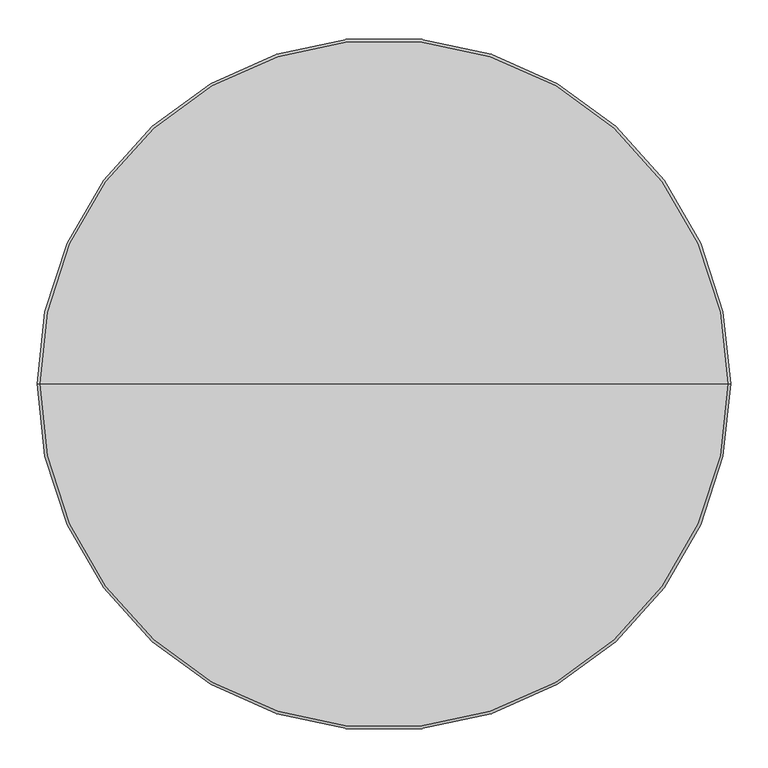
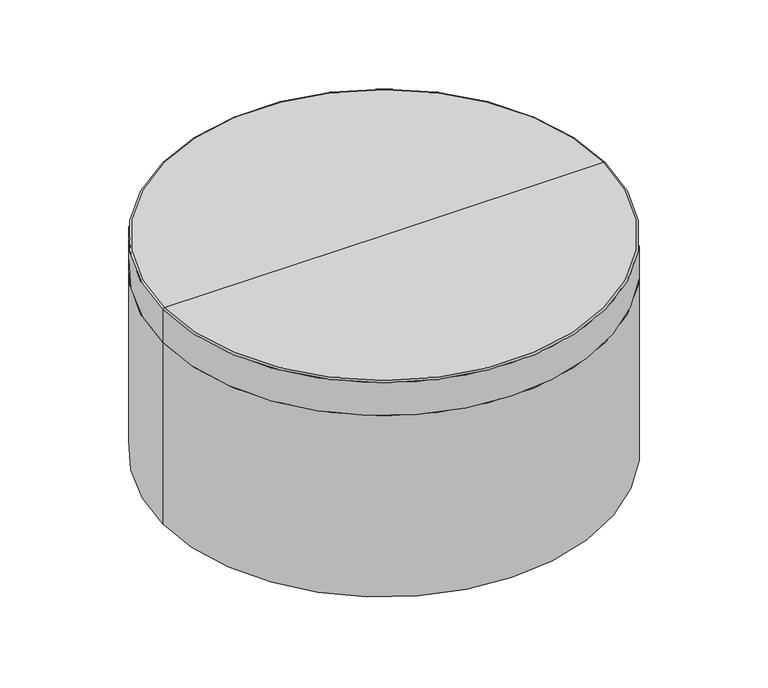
"""IFC4 building model written with IfcOpenShell, lengths in millimetres: furniture geometry, StanceHC-Drum_Table : 3-DRT36D20-U."""

from ifc_helpers import new_model, si_unit, point, frame, frame_2d, origin, origin_with_axes, place, context, project, spatial, circle_curve, ellipse_curve, trimmed, segment, composite_curve, outline, extrude, source, transform, mapped, element, save
from ifc_brep_helpers import plane_surface, cylinder_surface, revolved_surface, advanced_brep


def furniture_c60440c1(model_context):
    return source(origin(), model_context, "Body", "SolidModel", [
        extrude(outline(composite_curve([segment(trimmed(circle_curve(frame_2d((0.0, 402.5164845)), 12.7), [point((-12.7, 402.5164845))], [point((12.7, 402.5164845))], False, "CARTESIAN"), True, "CONTINUOUS"), segment(trimmed(circle_curve(frame_2d((0.0, 402.5164845)), 12.7), [point((12.7, 402.5164845))], [point((-12.7, 402.5164845))], False, "CARTESIAN"), True, "CONTINUOUS")], self_intersect=False)), origin_with_axes(), (0.0, 0.0, 1.0), 4.7625),
        extrude(outline(composite_curve([segment(trimmed(circle_curve(frame_2d((0.0, -402.5164845)), 12.7), [point((-12.7, -402.5164845))], [point((12.7, -402.5164845))], False, "CARTESIAN"), True, "CONTINUOUS"), segment(trimmed(circle_curve(frame_2d((0.0, -402.5164845)), 12.7), [point((12.7, -402.5164845))], [point((-12.7, -402.5164845))], False, "CARTESIAN"), True, "CONTINUOUS")], self_intersect=False)), origin_with_axes(), (0.0, 0.0, 1.0), 4.7625),
        extrude(outline(composite_curve([segment(trimmed(circle_curve(frame_2d((406.3996404, 0.0)), 12.7), [point((393.6996404, 0.0))], [point((419.0996404, 0.0))], False, "CARTESIAN"), True, "CONTINUOUS"), segment(trimmed(circle_curve(frame_2d((406.3996404, 0.0)), 12.7), [point((419.0996404, 0.0))], [point((393.6996404, 0.0))], False, "CARTESIAN"), True, "CONTINUOUS")], self_intersect=False)), origin_with_axes(), (0.0, 0.0, 1.0), 4.7625),
        extrude(outline(composite_curve([segment(trimmed(circle_curve(frame_2d((-406.3996404, 0.0)), 12.7), [point((-419.0996404, 0.0))], [point((-393.6996404, 0.0))], False, "CARTESIAN"), True, "CONTINUOUS"), segment(trimmed(circle_curve(frame_2d((-406.3996404, 0.0)), 12.7), [point((-393.6996404, 0.0))], [point((-419.0996404, 0.0))], False, "CARTESIAN"), True, "CONTINUOUS")], self_intersect=False)), origin_with_axes(), (0.0, 0.0, 1.0), 4.7625),
        advanced_brep(
        [(0.0, 0.0, 406.4), (463.55, 0.0, 406.4), (-463.55, 0.0, 406.4), (-463.55, 0.0, 4.7625), (463.55, 0.0, 4.7625), (0.0, 0.0, 4.7625)],
        [
            (0, 1),
            (1, 2, circle_curve(frame((0.0, 0.0, 406.4), z_axis=(0.0, 0.0, 1.0), x_axis=(1.0, 0.0, 0.0)), 463.55)),
            (2, 0),
            (2, 1, circle_curve(frame((0.0, 0.0, 406.4), z_axis=(0.0, 0.0, 1.0), x_axis=(1.0, 0.0, 0.0)), 463.55)),
            (3, 4, circle_curve(frame((0.0, 0.0, 4.7625), z_axis=(0.0, 0.0, -1.0), x_axis=(1.0, 0.0, 0.0)), 463.55)),
            (4, 5),
            (5, 3),
            (4, 3, circle_curve(frame((0.0, 0.0, 4.7625), z_axis=(0.0, 0.0, -1.0), x_axis=(1.0, 0.0, 0.0)), 463.55)),
            (1, 4),
            (3, 2),
        ],
        [
            plane_surface(frame((0.0, 0.0, 406.4), z_axis=(0.0, 0.0, 1.0), x_axis=(1.0, 0.0, 0.0))),
            plane_surface(frame((0.0, 0.0, 4.7625), z_axis=(0.0, 0.0, -1.0), x_axis=(1.0, 0.0, 0.0))),
            cylinder_surface(frame((0.0, 0.0, 558.8), z_axis=(0.0, 0.0, 1.0), x_axis=(1.0, 0.0, 0.0)), 463.55),
        ],
        [
            (0, [[1, 2, 3]]),
            (0, [[-3, 4, -1]]),
            (1, [[5, 6, 7]]),
            (1, [[8, -7, -6]]),
            (2, [[-2, 9, -5, 10]]),
            (2, [[-4, -10, -8, -9]]),
        ],
    ),
        advanced_brep(
        [(-463.55, 0.0, 406.4), (463.55, 0.0, 406.4), (0.0, 0.0, 406.4), (-463.55, 0.0, 479.4764933), (463.55, 0.0, 479.4764933), (-460.4264933, 0.0, 482.6), (460.4264933, 0.0, 482.6), (0.0, 0.0, 482.6)],
        [
            (0, 1, circle_curve(frame((0.0, 0.0, 406.4), z_axis=(0.0, 0.0, -1.0), x_axis=(1.0, 0.0, 0.0)), 463.55)),
            (1, 2),
            (2, 0),
            (1, 0, circle_curve(frame((0.0, 0.0, 406.4), z_axis=(0.0, 0.0, -1.0), x_axis=(1.0, 0.0, 0.0)), 463.55)),
            (3, 4, circle_curve(frame((0.0, 0.0, 479.4764933), z_axis=(0.0, 0.0, -1.0), x_axis=(1.0, 0.0, 0.0)), 463.55)),
            (4, 1),
            (0, 3),
            (4, 3, circle_curve(frame((0.0, 0.0, 479.4764933), z_axis=(0.0, 0.0, -1.0), x_axis=(1.0, 0.0, 0.0)), 463.55)),
            (5, 6, circle_curve(frame((0.0, 0.0, 482.6), z_axis=(0.0, 0.0, -1.0), x_axis=(1.0, 0.0, 0.0)), 460.4264933)),
            (6, 4, circle_curve(frame((460.4264933, 0.0, 479.4764933), z_axis=(0.0, 1.0, 0.0), x_axis=(1.0, 0.0, 0.0)), 3.1235067)),
            (3, 5, circle_curve(frame((-460.4264933, 0.0, 479.4764933), z_axis=(0.0, 1.0, 0.0), x_axis=(-1.0, 0.0, 0.0)), 3.1235067)),
            (6, 5, circle_curve(frame((0.0, 0.0, 482.6), z_axis=(0.0, 0.0, -1.0), x_axis=(1.0, 0.0, 0.0)), 460.4264933)),
            (7, 6),
            (5, 7),
        ],
        [
            plane_surface(frame((0.0, 0.0, 406.4), z_axis=(0.0, 0.0, -1.0), x_axis=(1.0, 0.0, 0.0))),
            cylinder_surface(frame((0.0, 0.0, 577.85), z_axis=(0.0, 0.0, 1.0), x_axis=(1.0, 0.0, 0.0)), 463.55),
            revolved_surface(trimmed(ellipse_curve(frame((460.4264933, 0.0, 479.4764933), z_axis=(0.0, -1.0, 0.0), x_axis=(1.0, 0.0, 0.0)), 3.1235067, 3.1235067), [point((463.55, 0.0, 479.4764933))], [point((460.4264933, 0.0, 482.6))], True, "CARTESIAN"), (0.0, 0.0, 577.85), (0.0, 0.0, 1.0)),
            plane_surface(frame((0.0, 0.0, 482.6), z_axis=(0.0, 0.0, 1.0), x_axis=(1.0, 0.0, 0.0))),
        ],
        [
            (0, [[1, 2, 3]]),
            (0, [[4, -3, -2]]),
            (1, [[5, 6, -1, 7]]),
            (1, [[8, -7, -4, -6]]),
            (2, [[9, 10, -5, 11]]),
            (2, [[12, -11, -8, -10]]),
            (3, [[13, -9, 14]]),
            (3, [[-14, -12, -13]]),
        ],
    ),
    ])


if __name__ == "__main__":
    model = new_model("IFC4")
    model_context = context("Model", 3, world=origin())
    ifc_project = project(units=[si_unit("LENGTHUNIT", "METRE", prefix="MILLI")], contexts=[model_context])
    site = spatial("IfcSite", under=ifc_project)
    building = spatial("IfcBuilding", under=site)
    placement = place(None, origin())
    furniture_shape = furniture_c60440c1(model_context)
    element("IfcFurniture", 1, ObjectType="StanceHC-Drum_Table : 3-DRT36D20-U", at=placement, inside=building, context=model_context, shape_type="MappedRepresentation", body=[
        mapped(furniture_shape, transform((0.0, 0.0, 0.0), x_axis=(1.0, 0.0, 0.0), y_axis=(0.0, 1.0, 0.0), z_axis=(0.0, 0.0, 1.0))),
    ])
    save(model, "model.ifc")
